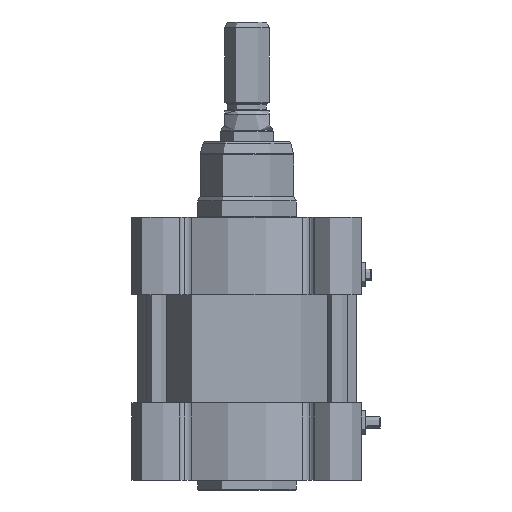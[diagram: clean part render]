
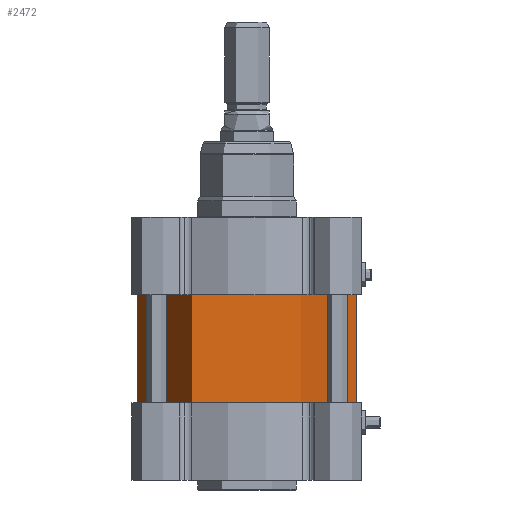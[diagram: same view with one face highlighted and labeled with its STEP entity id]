
A CAD part, front view. The second image highlights one B-rep face of the part: STEP entity #2472.
In plain terms, the highlighted cylindrical face has radius 66.5 mm (diameter 133 mm), a partial arc.
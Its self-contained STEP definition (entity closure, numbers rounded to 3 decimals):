
#2472=ADVANCED_FACE('',(#4927),#4928,.T.);
#4927=FACE_OUTER_BOUND('',#7344,.T.);
#4928=CYLINDRICAL_SURFACE('',#7345,66.5);
#7344=EDGE_LOOP('',(#14064,#14065,#14066,#14067));
#7345=AXIS2_PLACEMENT_3D('',#14068,#14069,#14070);
#14064=ORIENTED_EDGE('',*,*,#16628,.F.);
#14065=ORIENTED_EDGE('',*,*,#16629,.F.);
#14066=ORIENTED_EDGE('',*,*,#16630,.F.);
#14067=ORIENTED_EDGE('',*,*,#16631,.T.);
#14068=CARTESIAN_POINT('',(0.0,0.0,0.0));
#14069=DIRECTION('',(-0.0,0.0,-1.0));
#14070=DIRECTION('',(-1.0,0.0,0.0));
#16628=EDGE_CURVE('',#20181,#20182,#20183,.T.);
#16629=EDGE_CURVE('0:4906',#20184,#20181,#20185,.T.);
#16630=EDGE_CURVE('',#20186,#20184,#20187,.T.);
#16631=EDGE_CURVE('0:4912',#20186,#20182,#20188,.T.);
#20181=VERTEX_POINT('',#25657);
#20182=VERTEX_POINT('',#25658);
#20183=LINE('',#25659,#25660);
#20184=VERTEX_POINT('',#25661);
#20185=CIRCLE('',#25662,66.5);
#20186=VERTEX_POINT('',#25663);
#20187=LINE('',#25664,#25665);
#20188=CIRCLE('',#25666,66.5);
#25657=CARTESIAN_POINT('',(-66.5,0.,0.0));
#25658=CARTESIAN_POINT('',(-66.5,0.,66.0));
#25659=CARTESIAN_POINT('',(-66.5,0.,0.0));
#25660=VECTOR('',#29108,1.0);
#25661=CARTESIAN_POINT('',(66.5,0.,0.0));
#25662=AXIS2_PLACEMENT_3D('',#29109,#29110,#29111);
#25663=CARTESIAN_POINT('',(66.5,0.,66.0));
#25664=CARTESIAN_POINT('',(66.5,0.,0.0));
#25665=VECTOR('',#29112,1.0);
#25666=AXIS2_PLACEMENT_3D('',#29113,#29114,#29115);
#29108=DIRECTION('',(-0.0,-0.0,1.0));
#29109=CARTESIAN_POINT('',(0.0,0.0,0.0));
#29110=DIRECTION('',(0.0,0.0,-1.0));
#29111=DIRECTION('',(-1.0,0.0,0.0));
#29112=DIRECTION('',(-0.0,-0.0,-1.0));
#29113=CARTESIAN_POINT('',(0.0,0.0,66.0));
#29114=DIRECTION('',(0.0,0.0,-1.0));
#29115=DIRECTION('',(-1.0,0.0,0.0));
